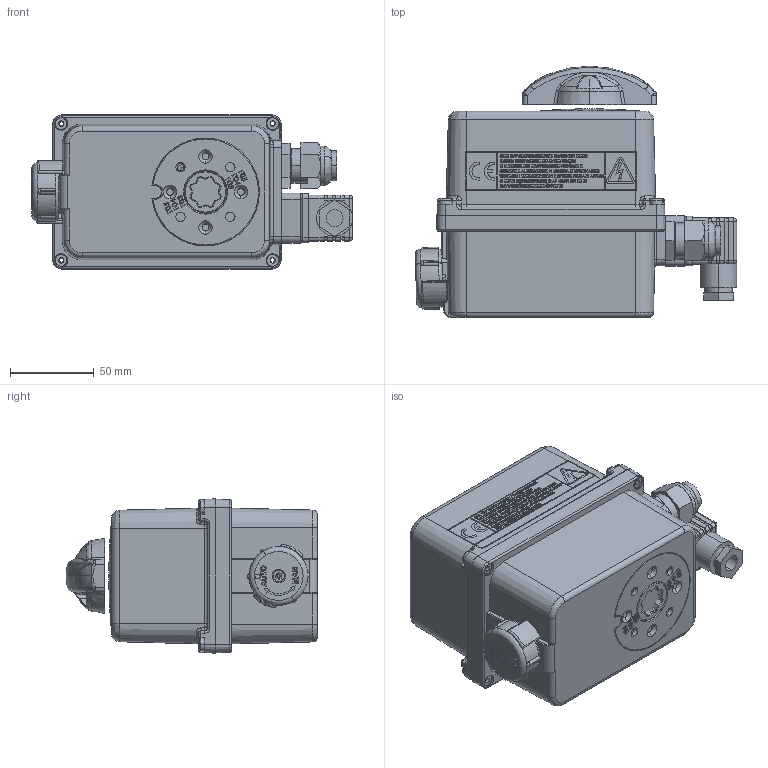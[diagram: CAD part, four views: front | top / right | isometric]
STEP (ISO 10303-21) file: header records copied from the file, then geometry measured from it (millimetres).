
FILE_DESCRIPTION (( 'STEP AP203' ), '1' );
FILE_NAME ('ER10-20-35_enveloppe.STEP', '2016-07-28T09:40:21', ( '' ), ( '' ), 'SwSTEP 2.0', 'SolidWorks 2013', '' );
FILE_SCHEMA (( 'CONFIG_CONTROL_DESIGN' ));
Products named in the file (1): ER10-20-35_enveloppe
Bounding box: 191.76 x 150.19 x 92 mm (x, y, z)
Surface area: 126437.5 mm2 (no closed solid volume)
Topology: 0 solids, 321 shells, 1376 faces, 9325 edges, 8200 vertices
Faces by surface type: plane 766, bspline 315, cylinder 234, cone 59, torus 2
Entity records: 129572 total; most frequent: CARTESIAN_POINT 67926, ORIENTED_EDGE 11453, DIRECTION 9338, EDGE_CURVE 9320, VERTEX_POINT 8200, VECTOR 5752, LINE 5752, B_SPLINE_CURVE_WITH_KNOTS 2688
